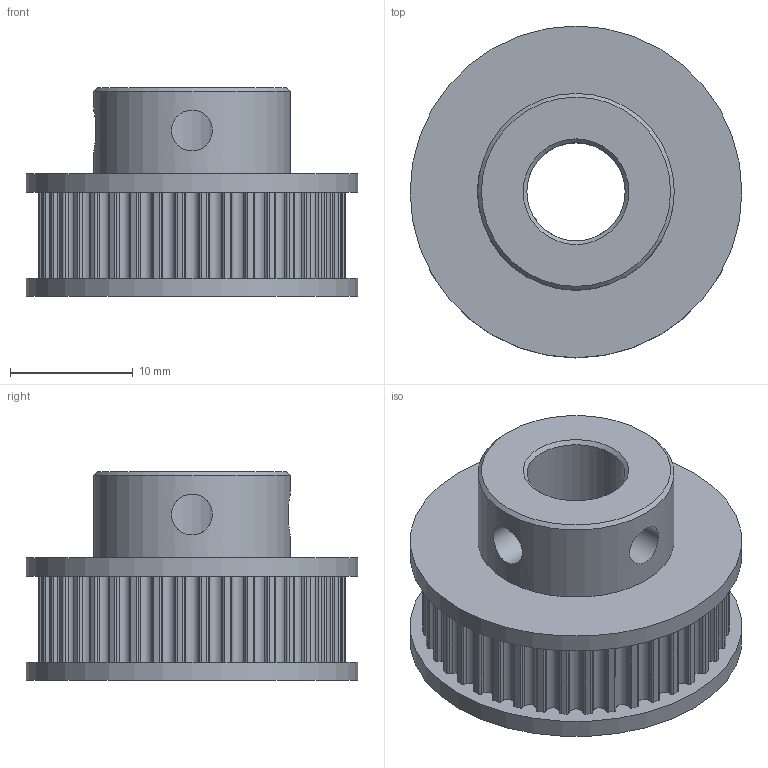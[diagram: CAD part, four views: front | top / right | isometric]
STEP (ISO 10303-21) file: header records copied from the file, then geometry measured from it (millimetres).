
FILE_DESCRIPTION(/* description */ ('','CAx-IF Rec.Pracs.---Representation and Presentation of Product Manufacturing Information (PMI)---4.0---2014-10-13'),/* implementation_level */ '2;1');
FILE_NAME(/* name */ 'GT2_40T_8mm-Bore_6mm-Belt v2.step',/* time_stamp */ '2025-01-11T10:36:44-08:00',/* author */ (''),/* organization */ (''),/* preprocessor_version */ 'ST-DEVELOPER v20',/* originating_system */ 'Autodesk Translation Framework v13.20.0.188',/* authorisation */ '');
FILE_SCHEMA (('AP242_MANAGED_MODEL_BASED_3D_ENGINEERING_MIM_LF { 1 0 10303 442 1 1 4 }'));
Length unit declared in the file: millimetre
Products named in the file (2): GT2_40T_8mm-Bore_6mm-Belt; GT2 Timing Pulley v2 v1
Assembly tree (1 placements, depth 2):
  GT2_40T_8mm-Bore_6mm-Belt
    GT2 Timing Pulley v2 v1
Bounding box: 27 x 27 x 17 mm (x, y, z)
Volume: 5416.8 mm3; surface area: 3120.1 mm2
Topology: 1 solids, 1 shells, 258 faces, 751 edges, 499 vertices
Faces by surface type: cylinder 247, plane 6, cone 4, bspline 1
Full cylindrical faces by diameter (mm): 3.332 x2, 8 x2, 16 x1, 27 x2
Entity records: 9098 total; most frequent: DIRECTION 1760, CARTESIAN_POINT 1721, ORIENTED_EDGE 1502, AXIS2_PLACEMENT_3D 754, EDGE_CURVE 751, VERTEX_POINT 499, CIRCLE 494, EDGE_LOOP 268
